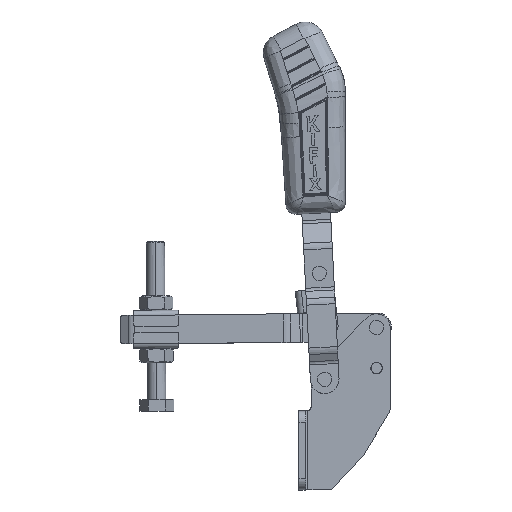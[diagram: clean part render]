
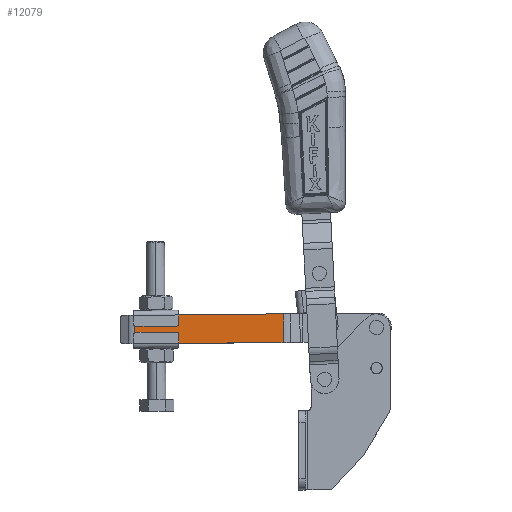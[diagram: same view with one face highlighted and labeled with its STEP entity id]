
A CAD part, top view. The second image highlights one B-rep face of the part: STEP entity #12079.
In plain terms, the highlighted planar face has unit normal (0, 0, 1) as drawn and (1, 0, 0) by its records, which use the part's own axes.
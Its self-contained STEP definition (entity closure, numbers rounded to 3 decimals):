
#408 = CARTESIAN_POINT ( 'NONE',  ( 5.656, 40.56, 6.35 ) ) ;
#521 = LINE ( 'NONE', #7235, #10096 ) ;
#1724 = LINE ( 'NONE', #12545, #15909 ) ;
#1726 = LINE ( 'NONE', #408, #21732 ) ;
#2110 = CARTESIAN_POINT ( 'NONE',  ( 5.656, 40.56, -6.35 ) ) ;
#3528 = EDGE_LOOP ( 'NONE', ( #19938, #5094, #4337, #11897 ) ) ;
#3531 = EDGE_CURVE ( 'NONE', #20836, #4947, #521, .T. ) ;
#4337 = ORIENTED_EDGE ( 'NONE', *, *, #4802, .T. ) ;
#4802 = EDGE_CURVE ( 'NONE', #9381, #20836, #16521, .T. ) ;
#4947 = VERTEX_POINT ( 'NONE', #20609 ) ;
#5094 = ORIENTED_EDGE ( 'NONE', *, *, #21744, .F. ) ;
#5333 = AXIS2_PLACEMENT_3D ( 'NONE', #7843, #9789, #23503 ) ;
#6169 = VECTOR ( 'NONE', #9943, 1000. ) ;
#6580 = FACE_OUTER_BOUND ( 'NONE', #3528, .T. ) ;
#7235 = CARTESIAN_POINT ( 'NONE',  ( 5.656, -25.577, 6.35 ) ) ;
#7843 = CARTESIAN_POINT ( 'NONE',  ( 5.656, 41.2, 6.35 ) ) ;
#8676 = CARTESIAN_POINT ( 'NONE',  ( 5.656, 40.56, 6.35 ) ) ;
#9381 = VERTEX_POINT ( 'NONE', #8676 ) ;
#9789 = DIRECTION ( 'NONE',  ( 1., 0., 0. ) ) ;
#9943 = DIRECTION ( 'NONE',  ( 0., -1., 0. ) ) ;
#10096 = VECTOR ( 'NONE', #18979, 1000. ) ;
#10245 = EDGE_CURVE ( 'NONE', #24108, #4947, #1724, .T. ) ;
#11897 = ORIENTED_EDGE ( 'NONE', *, *, #3531, .T. ) ;
#11995 = DIRECTION ( 'NONE',  ( 0., 0., -1. ) ) ;
#12079 = ADVANCED_FACE ( 'NONE', ( #6580 ), #19600, .T. ) ;
#12545 = CARTESIAN_POINT ( 'NONE',  ( 5.656, 41.2, -6.35 ) ) ;
#15909 = VECTOR ( 'NONE', #24308, 1000. ) ;
#16521 = LINE ( 'NONE', #19750, #6169 ) ;
#18105 = CARTESIAN_POINT ( 'NONE',  ( 5.656, -25.577, 6.35 ) ) ;
#18979 = DIRECTION ( 'NONE',  ( 0., 0., -1. ) ) ;
#19600 = PLANE ( 'NONE',  #5333 ) ;
#19750 = CARTESIAN_POINT ( 'NONE',  ( 5.656, 41.2, 6.35 ) ) ;
#19938 = ORIENTED_EDGE ( 'NONE', *, *, #10245, .F. ) ;
#20609 = CARTESIAN_POINT ( 'NONE',  ( 5.656, -25.577, -6.35 ) ) ;
#20836 = VERTEX_POINT ( 'NONE', #18105 ) ;
#21732 = VECTOR ( 'NONE', #11995, 1000. ) ;
#21744 = EDGE_CURVE ( 'NONE', #9381, #24108, #1726, .T. ) ;
#23503 = DIRECTION ( 'NONE',  ( 0., 1., 0. ) ) ;
#24108 = VERTEX_POINT ( 'NONE', #2110 ) ;
#24308 = DIRECTION ( 'NONE',  ( 0., -1., 0. ) ) ;
